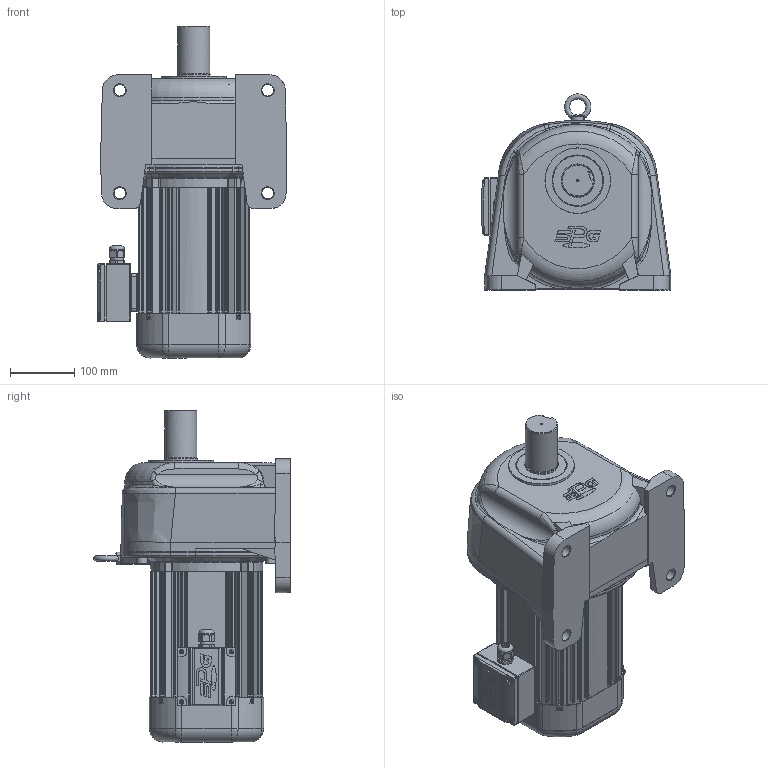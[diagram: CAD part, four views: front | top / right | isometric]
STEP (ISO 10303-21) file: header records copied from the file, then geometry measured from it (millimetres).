
FILE_DESCRIPTION(/* description */ (''),/* implementation_level */ '2;1');
FILE_NAME(/* name */ 'Z:\동력 3D 파일\PAL50-(100~200)-PA(B)150[ ]L_(3D).stp',/* time_stamp */ '2021-10-18T17:36:07+09:00',/* author */ ('jaebok'),/* organization */ (''),/* preprocessor_version */ 'ST-DEVELOPER v18.1',/* originating_system */ 'Autodesk Inventor 2022',/* authorisation */ '');
FILE_SCHEMA (('AUTOMOTIVE_DESIGN { 1 0 10303 214 3 1 1 }'));
Length unit declared in the file: millimetre
Products named in the file (1): 부품10
Bounding box: 295.5 x 305.23 x 516.5 mm (x, y, z)
Volume: 5509729.8 mm3; surface area: 1226895.4 mm2
Topology: 1 solids, 32 shells, 3076 faces, 7832 edges, 4758 vertices
Faces by surface type: plane 983, cylinder 818, bspline 801, torus 230, cone 188, sphere 56
Full cylindrical faces by diameter (mm): 2.5 x2, 3.25 x1, 3.6 x4, 4 x22, 5 x21, 6 x5, 7 x12, 8 x3, 8.376 x4, 8.5 x1, 8.8 x1, 10 x7, 11 x4, 12.5 x1, 15 x1, 16 x4, 18 x4, 20 x2, 21 x1, 22 x1, 23.6 x1, 25 x2, 26 x1, 35.8 x1, 36 x2, 38 x1, 40 x1, 49.8 x2, 50 x2, 52 x3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
Entity records: 121832 total; most frequent: CARTESIAN_POINT 49387, ORIENTED_EDGE 15370, DIRECTION 13329, EDGE_CURVE 7685, AXIS2_PLACEMENT_3D 5329, VERTEX_POINT 4754, EDGE_LOOP 3286, FACE_OUTER_BOUND 3076
